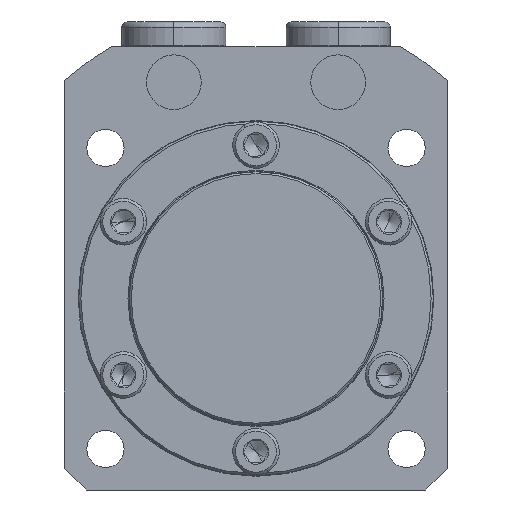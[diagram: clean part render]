
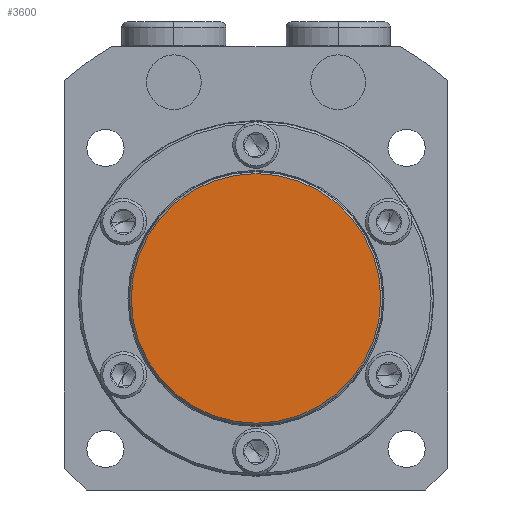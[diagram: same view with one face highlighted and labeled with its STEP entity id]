
A CAD part, front view. The second image highlights one B-rep face of the part: STEP entity #3600.
In plain terms, the highlighted planar face has unit normal (0, -1, 0).
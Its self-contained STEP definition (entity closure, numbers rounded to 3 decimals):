
#1624 = CARTESIAN_POINT ( 'NONE',  ( 0., -10.5, 22.8 ) ) ;
#2029 = EDGE_LOOP ( 'NONE', ( #2486, #2487 ) ) ;
#2136 = VERTEX_POINT ( 'NONE', #1624 ) ;
#2486 = ORIENTED_EDGE ( 'NONE', *, *, #4542, .T. ) ;
#2487 = ORIENTED_EDGE ( 'NONE', *, *, #4484, .T. ) ;
#3600 = ADVANCED_FACE ( 'NONE', ( #4172 ), #4173, .T. ) ;
#3651 = AXIS2_PLACEMENT_3D ( 'NONE', #4148, #4176, #4177 ) ;
#3726 = CIRCLE ( 'NONE', #3731, 22.8 ) ;
#3731 = AXIS2_PLACEMENT_3D ( 'NONE', #4981, #4982, #4983 ) ;
#4148 = CARTESIAN_POINT ( 'NONE',  ( 0., -10.5, 0. ) ) ;
#4172 = FACE_OUTER_BOUND ( 'NONE', #2029, .T. ) ;
#4173 = PLANE ( 'NONE',  #3651 ) ;
#4176 = DIRECTION ( 'NONE',  ( 0., -1., 0. ) ) ;
#4177 = DIRECTION ( 'NONE',  ( 0., 0., -1. ) ) ;
#4363 = CIRCLE ( 'NONE', #4366, 22.8 ) ;
#4366 = AXIS2_PLACEMENT_3D ( 'NONE', #5155, #5156, #5157 ) ;
#4484 = EDGE_CURVE ( 'NONE', #5363, #2136, #3726, .T. ) ;
#4542 = EDGE_CURVE ( 'NONE', #2136, #5363, #4363, .T. ) ;
#4981 = CARTESIAN_POINT ( 'NONE',  ( 0., -10.5, 0. ) ) ;
#4982 = DIRECTION ( 'NONE',  ( 0., -1., 0. ) ) ;
#4983 = DIRECTION ( 'NONE',  ( 0., 0., -1. ) ) ;
#5155 = CARTESIAN_POINT ( 'NONE',  ( 0., -10.5, 0. ) ) ;
#5156 = DIRECTION ( 'NONE',  ( 0., -1., 0. ) ) ;
#5157 = DIRECTION ( 'NONE',  ( 0., 0., -1. ) ) ;
#5233 = CARTESIAN_POINT ( 'NONE',  ( 0., -10.5, -22.8 ) ) ;
#5363 = VERTEX_POINT ( 'NONE', #5233 ) ;
